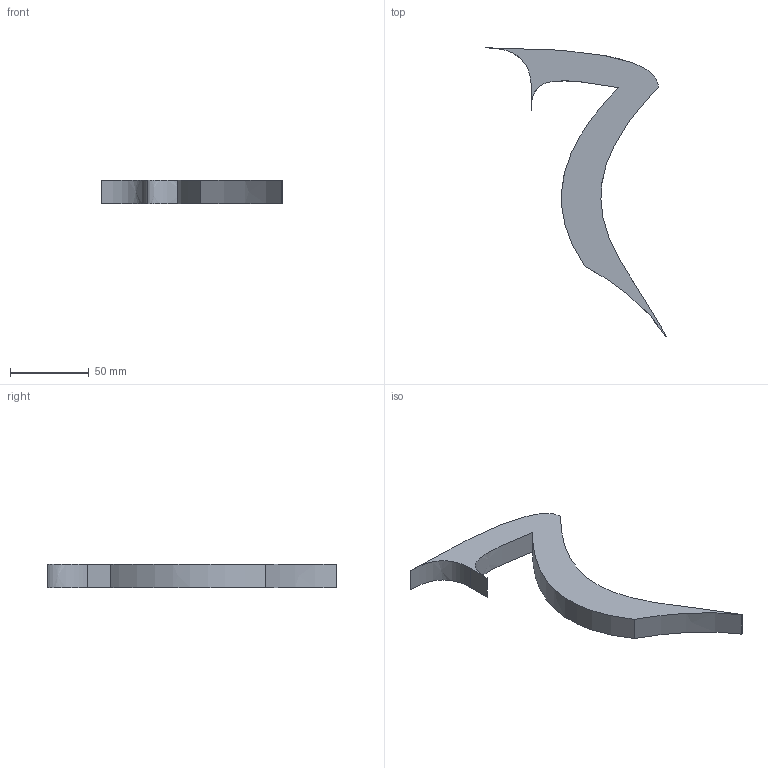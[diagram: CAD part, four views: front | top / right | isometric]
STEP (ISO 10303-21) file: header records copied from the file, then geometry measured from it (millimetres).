
FILE_DESCRIPTION(('FreeCAD Model'),'2;1');
FILE_NAME('Open CASCADE Shape Model','2024-03-17T22:25:53',('Author'),( ''),'Open CASCADE STEP processor 7.6','FreeCAD','Unknown');
FILE_SCHEMA(('AUTOMOTIVE_DESIGN { 1 0 10303 214 1 1 1 1 }'));
Length unit declared in the file: millimetre
Products named in the file (1): TechRim_CNC
Bounding box: 115.28 x 183.68 x 15 mm (x, y, z)
Volume: 72150.2 mm3; surface area: 18978 mm2
Topology: 1 solids, 1 shells, 12 faces, 26 edges, 18 vertices
Faces by surface type: extrusion 6, plane 5, cylinder 1
Entity records: 727 total; most frequent: CARTESIAN_POINT 209, DIRECTION 71, ORIENTED_EDGE 52, PCURVE 52, DEFINITIONAL_REPRESENTATION 52, VECTOR 44, LINE 38, B_SPLINE_CURVE_WITH_KNOTS 36
